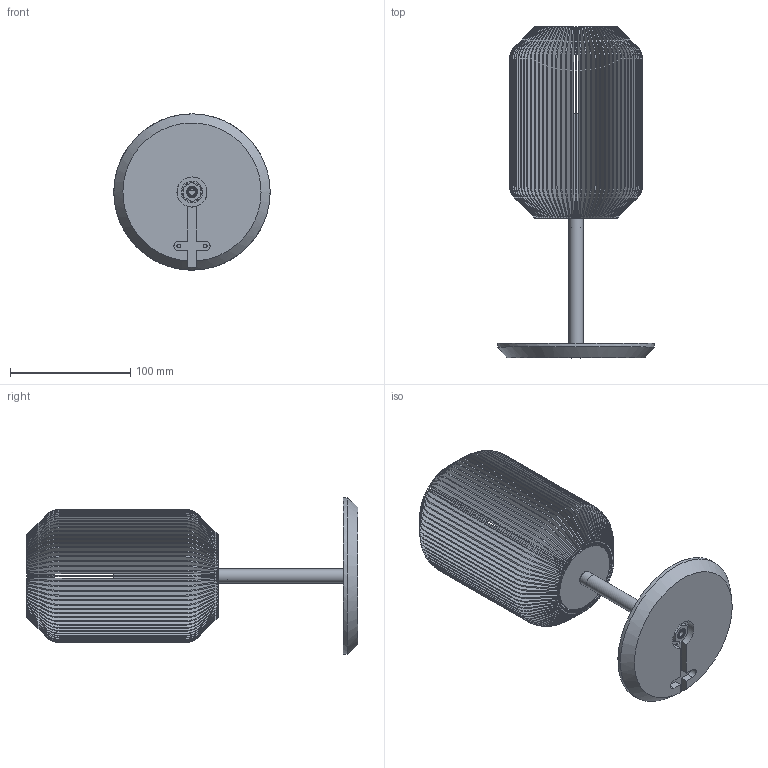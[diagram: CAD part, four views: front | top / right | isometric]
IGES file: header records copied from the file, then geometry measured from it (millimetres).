
Global section: file name: EOQ_Joseph Table Lamp; native system: unknown; preprocessor: unknown; author: aliceSSBN6; organization: unknown; date: 20180702.120925; units: millimetre
Bounding box: 129.99 x 276 x 130 mm (x, y, z)
Volume: 510583.6 mm3; surface area: 630281.2 mm2
Topology: 15 solids, 15 shells, 2218 faces, 7004 edges, 4660 vertices
Faces by surface type: bspline 2218
